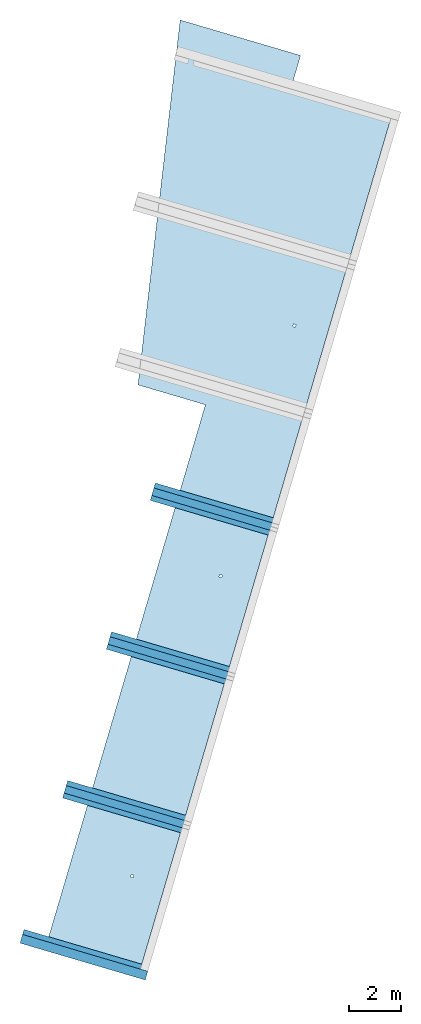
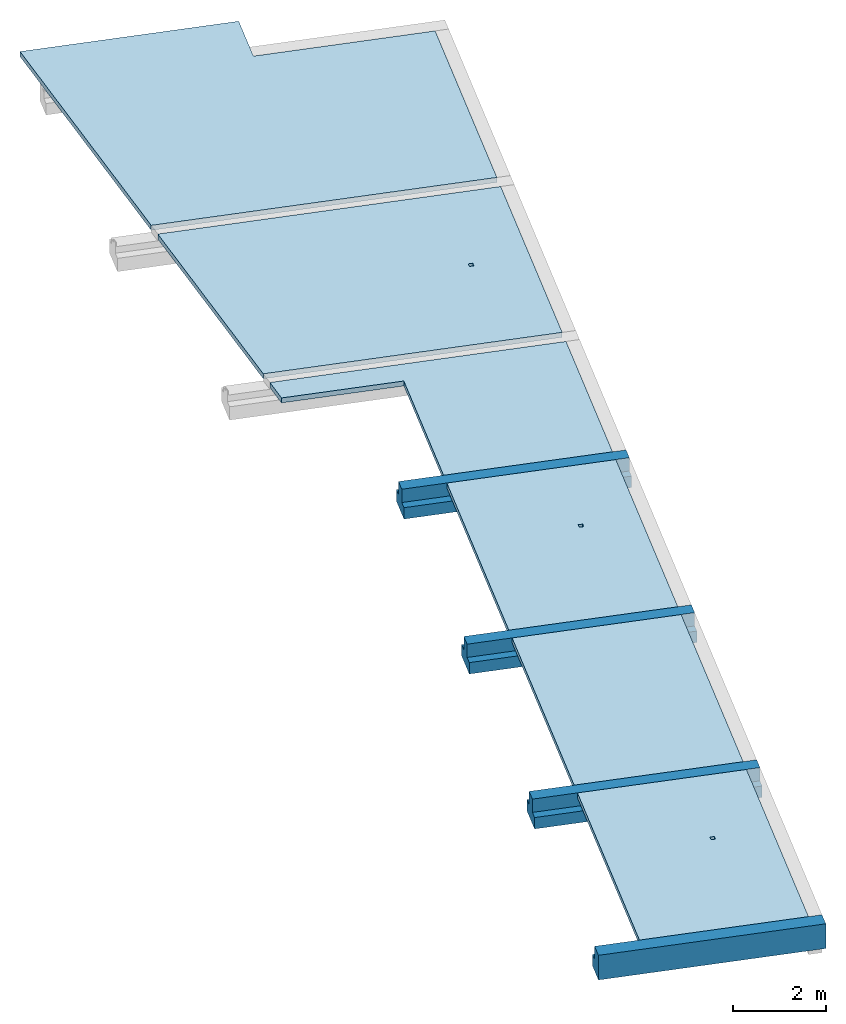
# One storey, part 1 of 2: 4 beams, 1 slab, 3 openings.
"""IFC2X3 building model written with IfcOpenShell, lengths in millimetres."""

from ifc_helpers import new_model, entity, si_unit, converted_unit, direction, frame, frame_2d, origin, place, context, subcontext, project, spatial, polyline, rectangle, outline, extrude, material, layer, layer_set, layer_usage, type_object, element, save


model = new_model("IFC2X3")

# Units and contexts
model_context = context("Model", 3, precision=0.01, world=origin(), true_north=direction((6.123233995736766e-17, 1.0)))
body_context = subcontext(model_context, "Body", "Model", "MODEL_VIEW")
ifc_project = project(units=[si_unit("LENGTHUNIT", "METRE", prefix="MILLI"), si_unit("AREAUNIT", "SQUARE_METRE"), si_unit("VOLUMEUNIT", "CUBIC_METRE"), converted_unit("PLANEANGLEUNIT", "DEGREE", entity("IfcPlaneAngleMeasure", 0.017453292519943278), si_unit("PLANEANGLEUNIT", "RADIAN"), dimensions=[0, 0, 0, 0, 0, 0, 0])], contexts=[model_context])

# Site, building, storey
site_placement = place(None, origin())
site = spatial("IfcSite", under=ifc_project, at=site_placement, Name="SiteName", CompositionType="ELEMENT")
building_placement = place(site_placement, origin())
building = spatial("IfcBuilding", under=site, at=building_placement, Name="Building Name", CompositionType="ELEMENT")
storey_placement = place(building_placement, frame((0.0, 0.0, 540.0)))
storey = spatial("IfcBuildingStorey", under=building, at=storey_placement, Name="HAT", CompositionType="ELEMENT", Elevation=540.0000000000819)

# Beams
ifc_material = material(Name="Concrete - Cast-in-Place")
beam_type_1 = type_object("IfcBeamType", Name="DLB:DLB 520x700", PredefinedType="NOTDEFINED")
beam_1_placement = place(storey_placement, frame((-54.578660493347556, 33207.65604110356, 0.0), z_axis=(0.0, 0.0, 1.0), x_axis=(-0.9592646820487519, 0.28250888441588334, 0.0)))
element("IfcBeam", 1, at=beam_1_placement, inside=storey, type_object=beam_type_1, material=ifc_material, Name="DLB:DLB 520x700", ObjectType="DLB:DLB 520x700", context=body_context, shape_type="SweptSolid", body=[
    extrude(outline(polyline([(12.499999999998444, -350.0), (312.50000000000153, -350.0), (312.50000000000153, 350.0), (12.499999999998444, 350.0), (12.499999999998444, 150.0), (-337.49999999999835, 150.0), (-337.49999999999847, -150.0), (12.499999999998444, -150.0), (12.499999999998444, -350.0)])), frame((0.0, 0.0, -207.50000000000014), z_axis=(1.0, 0.0, 0.0), x_axis=(0.0, 0.0, -1.0)), (0.0, 0.0, 1.0), 5054.689772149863),
])
beam_2_placement = place(storey_placement, frame((1640.1606306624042, 38963.1722578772, 0.0), z_axis=(0.0, 0.0, 1.0), x_axis=(-0.9592646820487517, 0.28250888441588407, 0.0)))
element("IfcBeam", 2, at=beam_2_placement, inside=storey, type_object=beam_type_1, material=ifc_material, Name="DLB:DLB 520x700", ObjectType="DLB:DLB 520x700", context=body_context, shape_type="SweptSolid", body=[
    extrude(outline(polyline([(12.499999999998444, -350.0), (312.50000000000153, -350.0), (312.50000000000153, 350.0), (12.499999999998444, 350.0), (12.499999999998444, 150.0), (-337.49999999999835, 150.0), (-337.49999999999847, -150.0), (12.499999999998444, -150.0), (12.499999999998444, -350.0)])), frame((0.0, 0.0, -207.50000000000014), z_axis=(1.0, 0.0, 0.0), x_axis=(0.0, 0.0, -1.0)), (0.0, 0.0, 1.0), 5054.408853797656),
])
beam_type_2 = type_object("IfcBeamType", Name="Concrete-L-Beam:LB 520x550", PredefinedType="NOTDEFINED")
beam_3_placement = place(storey_placement, frame((-3595.975289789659, 21714.967502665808, 0.0), z_axis=(0.0, 0.0, 1.0), x_axis=(-0.9592646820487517, 0.2825088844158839, 0.0)))
element("IfcBeam", 3, at=beam_3_placement, inside=storey, type_object=beam_type_2, material=ifc_material, Name="Concrete-L-Beam:LB 520x550", ObjectType="Concrete-L-Beam:LB 520x550", context=body_context, shape_type="SweptSolid", body=[
    extrude(outline(polyline([(16.66666666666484, -250.0), (316.6666666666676, -250.0), (316.6666666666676, 300.0), (-333.3333333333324, 300.0), (-333.3333333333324, -50.0), (16.66666666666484, -50.0), (16.66666666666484, -250.0)])), frame((-149.9829915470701, -125.0, -203.33333333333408), z_axis=(1.0, 0.0, 0.0), x_axis=(0.0, 0.0, -1.0)), (0.0, 0.0, 1.0), 5049.98299154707),
])
beam_type_3 = type_object("IfcBeamType", Name="DLB:DLB 520x700", PredefinedType="BEAM")
beam_4_placement = place(storey_placement, frame((-1750.0199436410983, 27452.017868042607, 0.0), z_axis=(0.0, 0.0, 1.0), x_axis=(-0.9592646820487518, 0.28250888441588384, 0.0)))
element("IfcBeam", 4, at=beam_4_placement, inside=storey, type_object=beam_type_3, material=ifc_material, Name="DLB:DLB 520x700", ObjectType="DLB:DLB 520x700", context=body_context, shape_type="SweptSolid", body=[
    extrude(outline(polyline([(12.499999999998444, -350.0), (312.50000000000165, -350.0), (312.50000000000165, 350.0), (12.499999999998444, 350.0), (12.499999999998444, 150.0), (-337.4999999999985, 150.0), (-337.4999999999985, -150.0), (12.499999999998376, -150.0), (12.499999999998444, -350.0)])), frame((0.0, 0.0, -207.5000000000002), z_axis=(1.0, 0.0, 0.0), x_axis=(0.0, 0.0, -1.0)), (0.0, 0.0, 1.0), 5054.331748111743),
])

# Slab, openings
ifc_layer = layer(ifc_material, 130.0)
ifc_layer_set = layer_set([ifc_layer], Name="Floor:Betong 130")
ifc_layer_usage = layer_usage(ifc_layer_set, "AXIS3", "POSITIVE", 0.0)
slab_type = type_object("IfcSlabType", Name="Floor:Betong 130", PredefinedType="FLOOR", material=ifc_layer_set)
slab_placement = place(storey_placement, origin())
slab = element("IfcSlab", 5, at=slab_placement, inside=storey, type_object=slab_type, material=ifc_layer_usage, Name="Floor:Betong 130", ObjectType="Floor:Betong 130", PredefinedType="FLOOR", context=body_context, shape_type="SweptSolid", body=[
    extrude(outline(polyline([(-71.3390771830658, -2791.7531812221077), (4786.6001449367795, -2791.7531812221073), (3570.4403170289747, 4233.156385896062), (-4107.223151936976, 4233.390975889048), (-4107.139155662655, -1441.5204996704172), (-71.33907718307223, -1441.5204996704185), (-71.3390771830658, -2791.7531812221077)])), frame((1650.9561494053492, 54605.454415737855, 0.0), z_axis=(0.0, 0.0, 1.0), x_axis=(-0.9592733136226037, 0.28247957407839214, 0.0)), (0.0, 0.0, 1.0), 130.00000000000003),
    extrude(outline(polyline([(-2850.0094312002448, -1877.1012376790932), (2849.839154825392, -1877.101237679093), (2850.0094253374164, 1876.9719759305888), (-2849.8391489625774, 1877.2304994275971), (-2850.0094312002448, -1877.1012376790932)]), holes=[polyline([(558.8659481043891, -511.04840251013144), (558.8614124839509, -611.0484024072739), (458.8614125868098, -611.0438667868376), (458.86594820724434, -511.0438668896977), (558.8659481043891, -511.04840251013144)])]), frame((-4686.06553964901, 25189.383409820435, 0.0), z_axis=(0.0, 0.0, 1.0), x_axis=(0.2824653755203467, 0.9592774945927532, 0.0)), (0.0, 0.0, 1.0), 130.0),
    extrude(outline(polyline([(-1008.3692303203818, -327.47395933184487), (2641.586501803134, -327.47395933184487), (2641.586501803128, 3426.0413768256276), (-1633.2853710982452, 3425.847484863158), (-1633.285371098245, -3152.5851704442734), (-1008.2330310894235, -3044.3557725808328), (-1008.3692303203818, -327.47395933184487)])), frame((-1146.308397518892, 42693.93481526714, 0.0), z_axis=(0.0, 0.0, 1.0), x_axis=(-0.28250888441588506, -0.9592646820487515, 0.0)), (0.0, 0.0, 1.0), 130.0),
    extrude(outline(polyline([(-2849.921170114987, -1876.829102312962), (2849.9211701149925, -1876.829102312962), (2849.921170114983, 1876.958363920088), (-2849.921170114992, 1876.6998407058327), (-2849.921170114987, -1876.829102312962)]), holes=[polyline([(-658.8860189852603, 511.2951912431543), (-658.8860189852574, 611.2951912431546), (-558.8860189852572, 611.2951912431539), (-558.8860189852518, 511.29519124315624), (-658.8860189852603, 511.2951912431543)])]), frame((-1296.2191003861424, 36700.639456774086, 0.0), z_axis=(0.0, 0.0, 1.0), x_axis=(-0.28250888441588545, -0.9592646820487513, 0.0)), (0.0, 0.0, 1.0), 130.00000000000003),
    extrude(outline(polyline([(-3475.1087761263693, -3511.7682519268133), (2258.9656181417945, -3511.768251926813), (3391.673882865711, 3029.9104914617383), (-2175.5307248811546, 3993.6260123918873), (-3475.1087761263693, -3511.7682519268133)]), holes=[polyline([(316.9488012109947, 2176.8115039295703), (218.41500288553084, 2193.872881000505), (235.47637995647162, 2292.406679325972), (334.01017828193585, 2275.3453022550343), (316.9488012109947, 2176.8115039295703)])]), frame((79.38910080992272, 47345.43056138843, 0.0), z_axis=(0.0, 0.0, 1.0), x_axis=(-0.11470296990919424, -0.9933998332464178, 0.0)), (0.0, 0.0, 1.0), 130.0),
    extrude(outline(polyline([(-2850.078823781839, -1876.9651709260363), (2850.078823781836, -1876.9651709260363), (2850.0788237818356, 1877.0944396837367), (-2850.07882378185, 1876.835902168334), (-2850.078823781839, -1876.9651709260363)])), frame((-2991.1418793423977, 30945.012929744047, 0.0), z_axis=(0.0, 0.0, 1.0), x_axis=(-0.28250888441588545, -0.9592646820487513, 0.0)), (0.0, 0.0, 1.0), 130.00000000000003),
])
opening_1_placement = place(slab_placement, origin())
element("IfcOpeningElement", 6, at=opening_1_placement, cuts=slab, Name="Floor:Betong 130", ObjectType="Opening", context=body_context, shape_type="SweptSolid", body=[
    extrude(rectangle(XDim=100.0000000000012, YDim=100.00000000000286, at=frame_2d((-4004.1302386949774, 25519.04877908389), x_axis=(0.9592646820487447, -0.2825088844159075))), frame((0.0, 0.0, 130.0)), (0.0, 0.0, -1.0), 130.00000000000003),
])
opening_2_placement = place(slab_placement, origin())
element("IfcOpeningElement", 7, at=opening_2_placement, cuts=slab, Name="Floor:Betong 130", ObjectType="Opening", context=body_context, shape_type="SweptSolid", body=[
    extrude(rectangle(XDim=99.99999999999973, YDim=100.00000000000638, at=frame_2d((-585.7727372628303, 37126.1514318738), x_axis=(0.9592646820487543, -0.28250888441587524))), frame((0.0, 0.0, 130.0)), (0.0, 0.0, -1.0), 130.00000000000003),
])
opening_3_placement = place(slab_placement, origin())
element("IfcOpeningElement", 8, at=opening_3_placement, cuts=slab, Name="Floor:Betong 130", ObjectType="Opening", context=body_context, shape_type="SweptSolid", body=[
    extrude(rectangle(XDim=99.99999999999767, YDim=99.99999999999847, at=frame_2d((2267.5669953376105, 46814.72472056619), x_axis=(0.959264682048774, -0.2825088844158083))), frame((0.0, 0.0, 130.0)), (0.0, 0.0, -1.0), 130.00000000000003),
])

save(model, "model.ifc")
